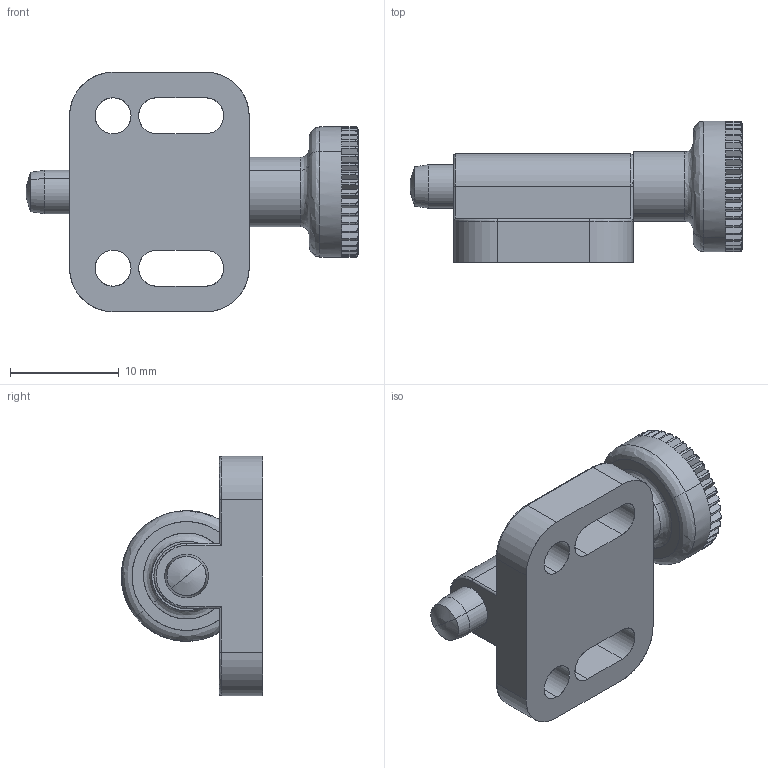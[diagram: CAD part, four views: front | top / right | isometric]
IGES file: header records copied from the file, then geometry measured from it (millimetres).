
Start section: SolidWorks IGES file using analytic representation for surfaces
Global section: file name: C:\HEMSIDA\cad\SLDPRT_2007\gn417\\gn417b_4.igs; native system: SolidWorks 2007; preprocessor: SolidWorks 2007; author: Administrator; date: 070919.152959; units: millimetre
Bounding box: 30.5 x 13 x 22 mm (x, y, z)
Surface area: 2219.6 mm2 (no closed solid volume)
Topology: 0 solids, 0 shells, 229 faces, 2520 edges, 2517 vertices
Faces by surface type: bspline 190, revolution 39
